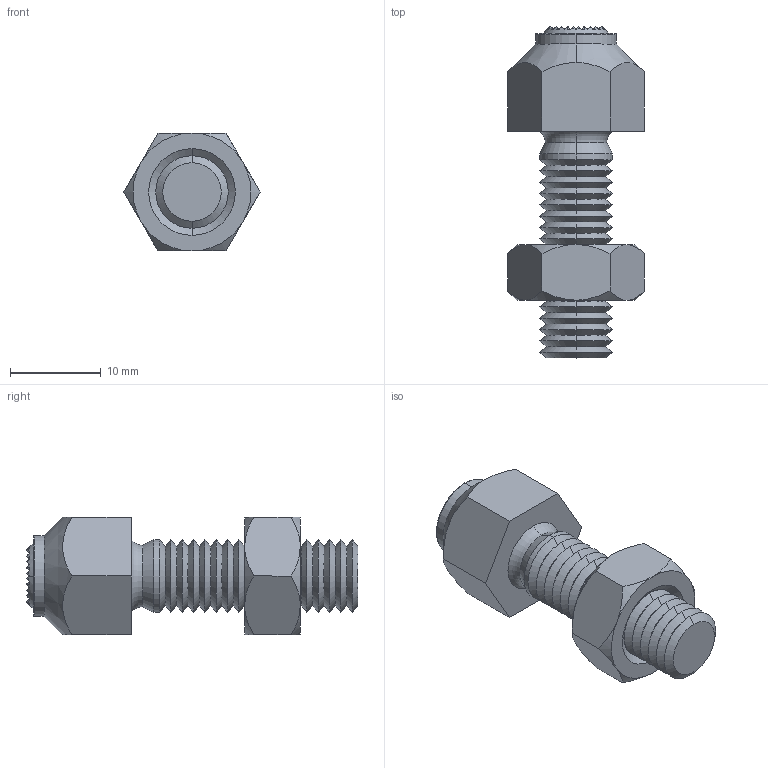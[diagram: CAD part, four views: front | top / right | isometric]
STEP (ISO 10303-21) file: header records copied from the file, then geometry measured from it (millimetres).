
FILE_DESCRIPTION (( 'STEP AP203' ), '1' );
FILE_NAME ('34120.W0313.step', '2017-03-27T09:21:01', ( 'User' ), ( '' ), 'SwSTEP 2.0', 'SolidWorks 2009', '' );
FILE_SCHEMA (( 'CONFIG_CONTROL_DESIGN' ));
Length unit declared in the file: millimetre
Products named in the file (4): Part1_34120.W0313; 34120.W0313; Part2_34120.W0313; Part3_34120.W0313
Assembly tree (3 placements, depth 2):
  34120.W0313
    Part2_34120.W0313
    Part3_34120.W0313
    Part1_34120.W0313
Bounding box: 15.01 x 36.6 x 13 mm (x, y, z)
Volume: 2978.5 mm3; surface area: 2493.7 mm2
Topology: 3 solids, 3 shells, 529 faces, 962 edges, 437 vertices
Faces by surface type: plane 419, cone 90, cylinder 8, torus 8, sphere 4
Entity records: 12624 total; most frequent: DIRECTION 2250, CARTESIAN_POINT 2150, ORIENTED_EDGE 1904, EDGE_CURVE 952, AXIS2_PLACEMENT_3D 795, VECTOR 660, LINE 660, EDGE_LOOP 533
